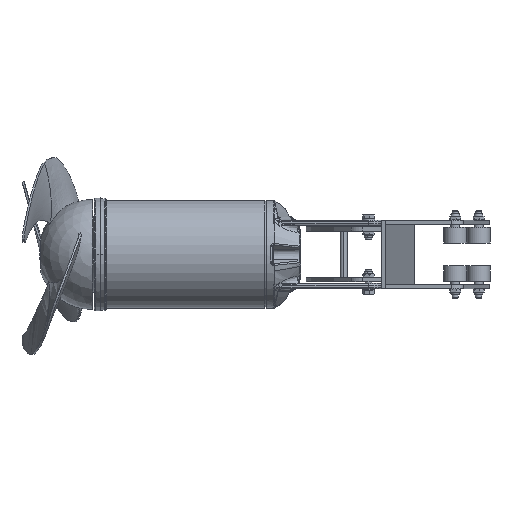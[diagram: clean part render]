
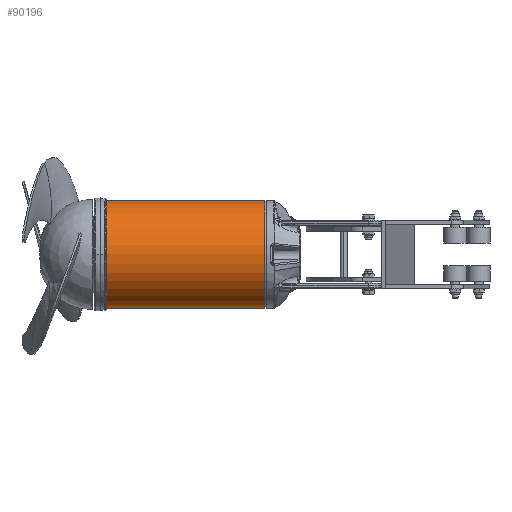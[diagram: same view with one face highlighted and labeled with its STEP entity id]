
A CAD part, front view. The second image highlights one B-rep face of the part: STEP entity #90196.
In plain terms, the highlighted cylindrical face has radius 103.811 mm (diameter 207.621 mm), a partial arc.
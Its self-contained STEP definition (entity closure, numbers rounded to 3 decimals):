
#2720 = VERTEX_POINT ( 'NONE', #50888 ) ;
#3982 = ORIENTED_EDGE ( 'NONE', *, *, #32100, .F. ) ;
#5102 = ORIENTED_EDGE ( 'NONE', *, *, #81656, .T. ) ;
#5241 = ORIENTED_EDGE ( 'NONE', *, *, #144341, .T. ) ;
#7717 = ORIENTED_EDGE ( 'NONE', *, *, #110009, .F. ) ;
#8630 = AXIS2_PLACEMENT_3D ( 'NONE', #60062, #143260, #72012 ) ;
#9671 = ORIENTED_EDGE ( 'NONE', *, *, #73745, .F. ) ;
#11594 = VECTOR ( 'NONE', #96908, 1000. ) ;
#11939 = CYLINDRICAL_SURFACE ( 'NONE', #40554, 103.81 ) ;
#17453 = VERTEX_POINT ( 'NONE', #18418 ) ;
#18418 = CARTESIAN_POINT ( 'NONE',  ( 304.543, 0., 103.81 ) ) ;
#20265 = CARTESIAN_POINT ( 'NONE',  ( -0.457, 0., 103.81 ) ) ;
#23103 = CARTESIAN_POINT ( 'NONE',  ( 304.543, 0., -103.81 ) ) ;
#30028 = VECTOR ( 'NONE', #137124, 1000. ) ;
#32100 = EDGE_CURVE ( 'NONE', #62726, #2720, #51921, .T. ) ;
#40554 = AXIS2_PLACEMENT_3D ( 'NONE', #145407, #74138, #50784 ) ;
#40564 = AXIS2_PLACEMENT_3D ( 'NONE', #131031, #59719, #142910 ) ;
#50140 = AXIS2_PLACEMENT_3D ( 'NONE', #58045, #141260, #69991 ) ;
#50784 = DIRECTION ( 'NONE',  ( 0., 0., 1. ) ) ;
#50888 = CARTESIAN_POINT ( 'NONE',  ( -0.457, 0., -103.811 ) ) ;
#51921 = LINE ( 'NONE', #125207, #30028 ) ;
#54586 = FACE_OUTER_BOUND ( 'NONE', #58866, .T. ) ;
#58045 = CARTESIAN_POINT ( 'NONE',  ( 304.543, 0., 0. ) ) ;
#58866 = EDGE_LOOP ( 'NONE', ( #3982, #5102, #5241, #7717, #9671 ) ) ;
#59719 = DIRECTION ( 'NONE',  ( -1., 0., 0. ) ) ;
#60062 = CARTESIAN_POINT ( 'NONE',  ( -0.457, 0., 0. ) ) ;
#61604 = CARTESIAN_POINT ( 'NONE',  ( -0.457, 0., 103.81 ) ) ;
#62726 = VERTEX_POINT ( 'NONE', #23103 ) ;
#69991 = DIRECTION ( 'NONE',  ( 0., 0., 1. ) ) ;
#71246 = CARTESIAN_POINT ( 'NONE',  ( -0.457, -103.81, 0. ) ) ;
#72012 = DIRECTION ( 'NONE',  ( 0., 0., 1. ) ) ;
#73745 = EDGE_CURVE ( 'NONE', #2720, #96552, #112813, .T. ) ;
#74138 = DIRECTION ( 'NONE',  ( -1., 0., 0. ) ) ;
#78334 = LINE ( 'NONE', #61604, #11594 ) ;
#81656 = EDGE_CURVE ( 'NONE', #62726, #17453, #142286, .T. ) ;
#90196 = ADVANCED_FACE ( 'NONE', ( #54586 ), #11939, .T. ) ;
#92036 = VERTEX_POINT ( 'NONE', #20265 ) ;
#96552 = VERTEX_POINT ( 'NONE', #71246 ) ;
#96908 = DIRECTION ( 'NONE',  ( -1., 0., 0. ) ) ;
#99113 = CIRCLE ( 'NONE', #8630, 103.81 ) ;
#110009 = EDGE_CURVE ( 'NONE', #96552, #92036, #99113, .T. ) ;
#112813 = CIRCLE ( 'NONE', #40564, 103.81 ) ;
#125207 = CARTESIAN_POINT ( 'NONE',  ( -0.457, 0., -103.81 ) ) ;
#131031 = CARTESIAN_POINT ( 'NONE',  ( -0.457, 0., 0. ) ) ;
#137124 = DIRECTION ( 'NONE',  ( -1., 0., 0. ) ) ;
#141260 = DIRECTION ( 'NONE',  ( -1., 0., 0. ) ) ;
#142286 = CIRCLE ( 'NONE', #50140, 103.81 ) ;
#142910 = DIRECTION ( 'NONE',  ( 0., 0., 1. ) ) ;
#143260 = DIRECTION ( 'NONE',  ( -1., 0., 0. ) ) ;
#144341 = EDGE_CURVE ( 'NONE', #17453, #92036, #78334, .T. ) ;
#145407 = CARTESIAN_POINT ( 'NONE',  ( -0.457, 0., 0. ) ) ;
